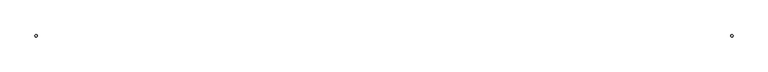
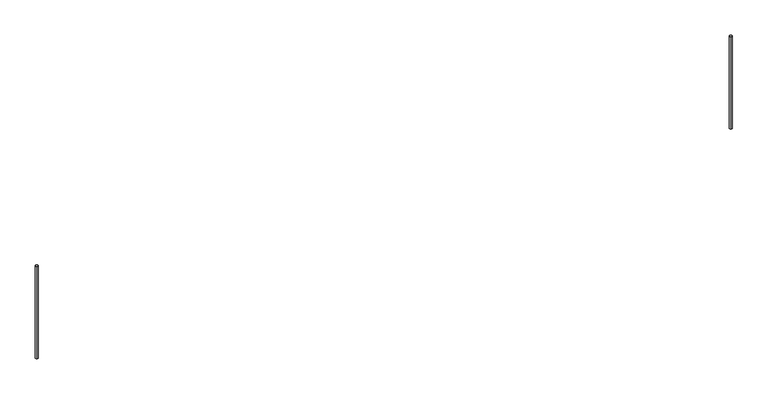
"""IFC4 building model written with IfcOpenShell, lengths in millimetres: proxy geometry, SS FH : Pieza SS FH 1_Postes Señalización Salida Falsa_Tubo43mm."""

from ifc_helpers import new_model, si_unit, point, frame_2d, origin, origin_with_axes, place, context, project, spatial, circle_curve, trimmed, segment, composite_curve, outline, extrude, source, transform, mapped, element, save


def generic_models_77f4bd42(model_context):
    return source(origin(), model_context, "Body", "SweptSolid", [
        extrude(outline(composite_curve([segment(trimmed(circle_curve(frame_2d((6400.0, 0.0)), 21.5), [point((6400.0, 21.5))], [point((6400.0, -21.5))], False, "CARTESIAN"), True, "CONTINUOUS"), segment(trimmed(circle_curve(frame_2d((6400.0, 0.0)), 21.5), [point((6400.0, -21.5))], [point((6400.0, 21.5))], False, "CARTESIAN"), True, "CONTINUOUS")], self_intersect=False)), origin_with_axes(), (0.0, 0.0, 1.0), 1800.0),
        extrude(outline(composite_curve([segment(trimmed(circle_curve(frame_2d((-6400.0, 0.0)), 21.5), [point((-6400.0, 21.5))], [point((-6400.0, -21.5))], False, "CARTESIAN"), True, "CONTINUOUS"), segment(trimmed(circle_curve(frame_2d((-6400.0, 0.0)), 21.5), [point((-6400.0, -21.5))], [point((-6400.0, 21.5))], False, "CARTESIAN"), True, "CONTINUOUS")], self_intersect=False)), origin_with_axes(), (0.0, 0.0, 1.0), 1800.0),
    ])


if __name__ == "__main__":
    model = new_model("IFC4")
    model_context = context("Model", 3, world=origin())
    ifc_project = project(units=[si_unit("LENGTHUNIT", "METRE", prefix="MILLI")], contexts=[model_context])
    site = spatial("IfcSite", under=ifc_project)
    building = spatial("IfcBuilding", under=site)
    placement = place(None, origin())
    generic_models_shape = generic_models_77f4bd42(model_context)
    element("IfcBuildingElementProxy", 1, Name="SS FH : Pieza SS FH 1_Postes Señalización Salida Falsa_Tubo43mm", ObjectType="SS FH : Pieza SS FH 1_Postes Señalización Salida Falsa_Tubo43mm", at=placement, inside=building, context=model_context, shape_type="MappedRepresentation", body=[
        mapped(generic_models_shape, transform((0.0, 0.0, 0.0), x_axis=(1.0, 0.0, 0.0), y_axis=(0.0, 1.0, 0.0), z_axis=(0.0, 0.0, 1.0))),
    ])
    save(model, "model.ifc")
